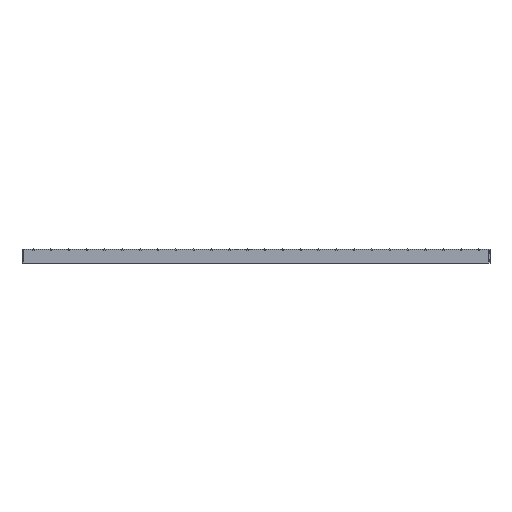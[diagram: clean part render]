
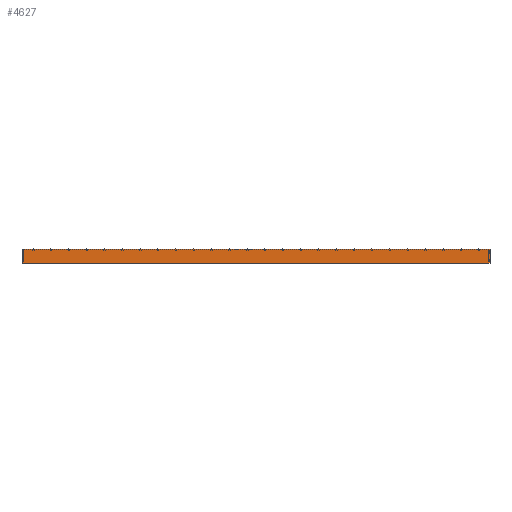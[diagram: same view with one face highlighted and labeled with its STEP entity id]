
A CAD part, front view. The second image highlights one B-rep face of the part: STEP entity #4627.
In plain terms, the highlighted planar face has unit normal (0, -1, 0) as drawn and (0, 0, 1) by its records, which use the part's own axes.
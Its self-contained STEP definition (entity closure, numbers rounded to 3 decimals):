
#501=PLANE('',#5057);
#657=LINE('',#6548,#1217);
#660=LINE('',#6554,#1220);
#661=LINE('',#6556,#1221);
#662=LINE('',#6558,#1222);
#1217=VECTOR('',#5594,1000.);
#1220=VECTOR('',#5599,1000.);
#1221=VECTOR('',#5600,1000.);
#1222=VECTOR('',#5601,1000.);
#2064=ORIENTED_EDGE('',*,*,#3112,.T.);
#2065=ORIENTED_EDGE('',*,*,#3113,.F.);
#2066=ORIENTED_EDGE('',*,*,#3114,.F.);
#2067=ORIENTED_EDGE('',*,*,#3109,.T.);
#3109=EDGE_CURVE('',#3670,#3669,#657,.T.);
#3112=EDGE_CURVE('',#3669,#3672,#660,.T.);
#3113=EDGE_CURVE('',#3673,#3672,#661,.T.);
#3114=EDGE_CURVE('',#3670,#3673,#662,.T.);
#3669=VERTEX_POINT('',#6547);
#3670=VERTEX_POINT('',#6549);
#3672=VERTEX_POINT('',#6555);
#3673=VERTEX_POINT('',#6557);
#4025=EDGE_LOOP('',(#2064,#2065,#2066,#2067));
#4309=FACE_BOUND('',#4025,.T.);
#4627=ADVANCED_FACE('',(#4309),#501,.F.);
#5057=AXIS2_PLACEMENT_3D('',#6553,#5597,#5598);
#5594=DIRECTION('',(-1.,0.,0.));
#5597=DIRECTION('',(0.,0.,-1.));
#5598=DIRECTION('',(-1.,0.,0.));
#5599=DIRECTION('',(0.,-1.,0.));
#5600=DIRECTION('',(-1.,0.,0.));
#5601=DIRECTION('',(0.,-1.,0.));
#6547=CARTESIAN_POINT('',(-500.,0.,500.));
#6548=CARTESIAN_POINT('',(500.,0.,500.));
#6549=CARTESIAN_POINT('',(500.,0.,500.));
#6553=CARTESIAN_POINT('',(500.,0.,500.));
#6554=CARTESIAN_POINT('',(-500.,0.,500.));
#6555=CARTESIAN_POINT('',(-500.,-30.,500.));
#6556=CARTESIAN_POINT('',(500.,-30.,500.));
#6557=CARTESIAN_POINT('',(500.,-30.,500.));
#6558=CARTESIAN_POINT('',(500.,0.,500.));
